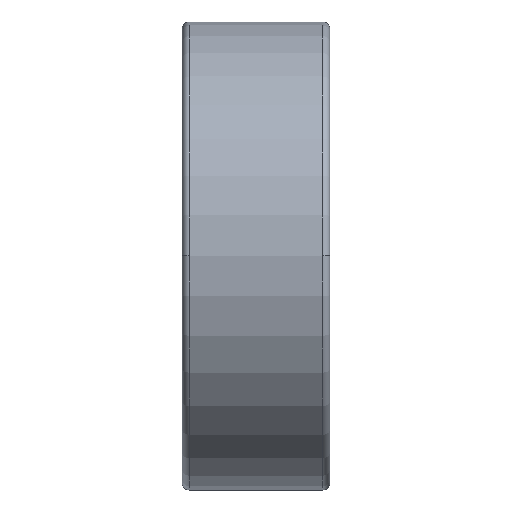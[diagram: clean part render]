
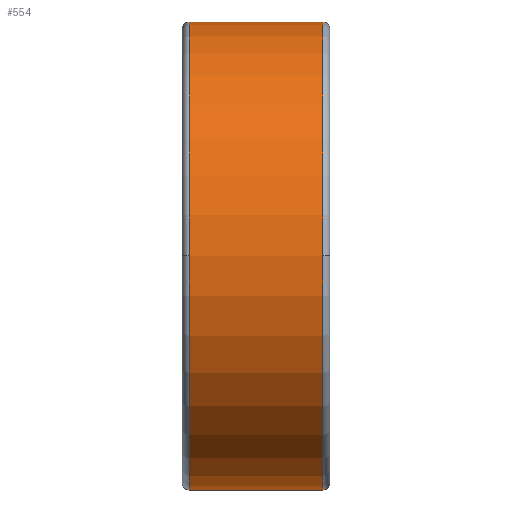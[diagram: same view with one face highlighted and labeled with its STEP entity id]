
A CAD part, top view. The second image highlights one B-rep face of the part: STEP entity #554.
In plain terms, the highlighted cylindrical face has radius 9.5 mm (diameter 19 mm), a partial arc.
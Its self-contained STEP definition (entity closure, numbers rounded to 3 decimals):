
#403 = TOROIDAL_SURFACE('',#404,9.2,0.3);
#404 = AXIS2_PLACEMENT_3D('',#405,#406,#407);
#405 = CARTESIAN_POINT('',(5.7,0.,0.));
#406 = DIRECTION('',(1.,0.,0.));
#407 = DIRECTION('',(0.,0.,-1.));
#415 = TOROIDAL_SURFACE('',#416,9.2,0.3);
#416 = AXIS2_PLACEMENT_3D('',#417,#418,#419);
#417 = CARTESIAN_POINT('',(5.7,0.,0.));
#418 = DIRECTION('',(1.,0.,0.));
#419 = DIRECTION('',(0.,0.,-1.));
#428 = VERTEX_POINT('',#429);
#429 = CARTESIAN_POINT('',(5.7,9.5,0.));
#444 = CYLINDRICAL_SURFACE('',#445,9.5);
#445 = AXIS2_PLACEMENT_3D('',#446,#447,#448);
#446 = CARTESIAN_POINT('',(3.,0.,0.));
#447 = DIRECTION('',(1.,0.,0.));
#448 = DIRECTION('',(-0.,1.,0.));
#456 = EDGE_CURVE('',#428,#457,#459,.T.);
#457 = VERTEX_POINT('',#458);
#458 = CARTESIAN_POINT('',(5.7,0.,9.5));
#459 = SURFACE_CURVE('',#460,(#465,#472),.PCURVE_S1.);
#460 = CIRCLE('',#461,9.5);
#461 = AXIS2_PLACEMENT_3D('',#462,#463,#464);
#462 = CARTESIAN_POINT('',(5.7,0.,0.));
#463 = DIRECTION('',(1.,0.,0.));
#464 = DIRECTION('',(-0.,1.,0.));
#465 = PCURVE('',#403,#466);
#466 = DEFINITIONAL_REPRESENTATION('',(#467),#471);
#467 = LINE('',#468,#469);
#468 = CARTESIAN_POINT('',(1.571,0.));
#469 = VECTOR('',#470,1.);
#470 = DIRECTION('',(1.,0.));
#471 = ( GEOMETRIC_REPRESENTATION_CONTEXT(2) 
PARAMETRIC_REPRESENTATION_CONTEXT() REPRESENTATION_CONTEXT('2D SPACE',''
  ) );
#472 = PCURVE('',#473,#478);
#473 = CYLINDRICAL_SURFACE('',#474,9.5);
#474 = AXIS2_PLACEMENT_3D('',#475,#476,#477);
#475 = CARTESIAN_POINT('',(3.,0.,0.));
#476 = DIRECTION('',(1.,0.,0.));
#477 = DIRECTION('',(-0.,1.,0.));
#478 = DEFINITIONAL_REPRESENTATION('',(#479),#483);
#479 = LINE('',#480,#481);
#480 = CARTESIAN_POINT('',(0.,2.7));
#481 = VECTOR('',#482,1.);
#482 = DIRECTION('',(1.,0.));
#483 = ( GEOMETRIC_REPRESENTATION_CONTEXT(2) 
PARAMETRIC_REPRESENTATION_CONTEXT() REPRESENTATION_CONTEXT('2D SPACE',''
  ) );
#554 = ADVANCED_FACE('',(#555),#473,.T.);
#555 = FACE_BOUND('',#556,.T.);
#556 = EDGE_LOOP('',(#557,#580,#609,#638,#661,#683));
#557 = ORIENTED_EDGE('',*,*,#558,.F.);
#558 = EDGE_CURVE('',#559,#428,#561,.T.);
#559 = VERTEX_POINT('',#560);
#560 = CARTESIAN_POINT('',(0.3,9.5,0.));
#561 = SURFACE_CURVE('',#562,(#566,#573),.PCURVE_S1.);
#562 = LINE('',#563,#564);
#563 = CARTESIAN_POINT('',(3.,9.5,0.));
#564 = VECTOR('',#565,1.);
#565 = DIRECTION('',(1.,0.,0.));
#566 = PCURVE('',#473,#567);
#567 = DEFINITIONAL_REPRESENTATION('',(#568),#572);
#568 = LINE('',#569,#570);
#569 = CARTESIAN_POINT('',(0.,0.));
#570 = VECTOR('',#571,1.);
#571 = DIRECTION('',(0.,1.));
#572 = ( GEOMETRIC_REPRESENTATION_CONTEXT(2) 
PARAMETRIC_REPRESENTATION_CONTEXT() REPRESENTATION_CONTEXT('2D SPACE',''
  ) );
#573 = PCURVE('',#444,#574);
#574 = DEFINITIONAL_REPRESENTATION('',(#575),#579);
#575 = LINE('',#576,#577);
#576 = CARTESIAN_POINT('',(6.283,0.));
#577 = VECTOR('',#578,1.);
#578 = DIRECTION('',(0.,1.));
#579 = ( GEOMETRIC_REPRESENTATION_CONTEXT(2) 
PARAMETRIC_REPRESENTATION_CONTEXT() REPRESENTATION_CONTEXT('2D SPACE',''
  ) );
#580 = ORIENTED_EDGE('',*,*,#581,.T.);
#581 = EDGE_CURVE('',#559,#582,#584,.T.);
#582 = VERTEX_POINT('',#583);
#583 = CARTESIAN_POINT('',(0.3,0.,9.5));
#584 = SURFACE_CURVE('',#585,(#590,#597),.PCURVE_S1.);
#585 = CIRCLE('',#586,9.5);
#586 = AXIS2_PLACEMENT_3D('',#587,#588,#589);
#587 = CARTESIAN_POINT('',(0.3,0.,0.));
#588 = DIRECTION('',(1.,0.,0.));
#589 = DIRECTION('',(-0.,1.,0.));
#590 = PCURVE('',#473,#591);
#591 = DEFINITIONAL_REPRESENTATION('',(#592),#596);
#592 = LINE('',#593,#594);
#593 = CARTESIAN_POINT('',(0.,-2.7));
#594 = VECTOR('',#595,1.);
#595 = DIRECTION('',(1.,0.));
#596 = ( GEOMETRIC_REPRESENTATION_CONTEXT(2) 
PARAMETRIC_REPRESENTATION_CONTEXT() REPRESENTATION_CONTEXT('2D SPACE',''
  ) );
#597 = PCURVE('',#598,#603);
#598 = TOROIDAL_SURFACE('',#599,9.2,0.3);
#599 = AXIS2_PLACEMENT_3D('',#600,#601,#602);
#600 = CARTESIAN_POINT('',(0.3,0.,0.));
#601 = DIRECTION('',(1.,0.,0.));
#602 = DIRECTION('',(0.,0.,-1.));
#603 = DEFINITIONAL_REPRESENTATION('',(#604),#608);
#604 = LINE('',#605,#606);
#605 = CARTESIAN_POINT('',(1.571,6.283));
#606 = VECTOR('',#607,1.);
#607 = DIRECTION('',(1.,0.));
#608 = ( GEOMETRIC_REPRESENTATION_CONTEXT(2) 
PARAMETRIC_REPRESENTATION_CONTEXT() REPRESENTATION_CONTEXT('2D SPACE',''
  ) );
#609 = ORIENTED_EDGE('',*,*,#610,.T.);
#610 = EDGE_CURVE('',#582,#611,#613,.T.);
#611 = VERTEX_POINT('',#612);
#612 = CARTESIAN_POINT('',(0.3,-9.5,0.));
#613 = SURFACE_CURVE('',#614,(#619,#626),.PCURVE_S1.);
#614 = CIRCLE('',#615,9.5);
#615 = AXIS2_PLACEMENT_3D('',#616,#617,#618);
#616 = CARTESIAN_POINT('',(0.3,0.,0.));
#617 = DIRECTION('',(1.,0.,0.));
#618 = DIRECTION('',(-0.,1.,0.));
#619 = PCURVE('',#473,#620);
#620 = DEFINITIONAL_REPRESENTATION('',(#621),#625);
#621 = LINE('',#622,#623);
#622 = CARTESIAN_POINT('',(0.,-2.7));
#623 = VECTOR('',#624,1.);
#624 = DIRECTION('',(1.,0.));
#625 = ( GEOMETRIC_REPRESENTATION_CONTEXT(2) 
PARAMETRIC_REPRESENTATION_CONTEXT() REPRESENTATION_CONTEXT('2D SPACE',''
  ) );
#626 = PCURVE('',#627,#632);
#627 = TOROIDAL_SURFACE('',#628,9.2,0.3);
#628 = AXIS2_PLACEMENT_3D('',#629,#630,#631);
#629 = CARTESIAN_POINT('',(0.3,0.,0.));
#630 = DIRECTION('',(1.,0.,0.));
#631 = DIRECTION('',(0.,0.,-1.));
#632 = DEFINITIONAL_REPRESENTATION('',(#633),#637);
#633 = LINE('',#634,#635);
#634 = CARTESIAN_POINT('',(1.571,6.283));
#635 = VECTOR('',#636,1.);
#636 = DIRECTION('',(1.,0.));
#637 = ( GEOMETRIC_REPRESENTATION_CONTEXT(2) 
PARAMETRIC_REPRESENTATION_CONTEXT() REPRESENTATION_CONTEXT('2D SPACE',''
  ) );
#638 = ORIENTED_EDGE('',*,*,#639,.F.);
#639 = EDGE_CURVE('',#640,#611,#642,.T.);
#640 = VERTEX_POINT('',#641);
#641 = CARTESIAN_POINT('',(5.7,-9.5,0.));
#642 = SURFACE_CURVE('',#643,(#647,#654),.PCURVE_S1.);
#643 = LINE('',#644,#645);
#644 = CARTESIAN_POINT('',(3.,-9.5,0.));
#645 = VECTOR('',#646,1.);
#646 = DIRECTION('',(-1.,-0.,-0.));
#647 = PCURVE('',#473,#648);
#648 = DEFINITIONAL_REPRESENTATION('',(#649),#653);
#649 = LINE('',#650,#651);
#650 = CARTESIAN_POINT('',(3.142,0.));
#651 = VECTOR('',#652,1.);
#652 = DIRECTION('',(0.,-1.));
#653 = ( GEOMETRIC_REPRESENTATION_CONTEXT(2) 
PARAMETRIC_REPRESENTATION_CONTEXT() REPRESENTATION_CONTEXT('2D SPACE',''
  ) );
#654 = PCURVE('',#444,#655);
#655 = DEFINITIONAL_REPRESENTATION('',(#656),#660);
#656 = LINE('',#657,#658);
#657 = CARTESIAN_POINT('',(3.142,0.));
#658 = VECTOR('',#659,1.);
#659 = DIRECTION('',(0.,-1.));
#660 = ( GEOMETRIC_REPRESENTATION_CONTEXT(2) 
PARAMETRIC_REPRESENTATION_CONTEXT() REPRESENTATION_CONTEXT('2D SPACE',''
  ) );
#661 = ORIENTED_EDGE('',*,*,#662,.F.);
#662 = EDGE_CURVE('',#457,#640,#663,.T.);
#663 = SURFACE_CURVE('',#664,(#669,#676),.PCURVE_S1.);
#664 = CIRCLE('',#665,9.5);
#665 = AXIS2_PLACEMENT_3D('',#666,#667,#668);
#666 = CARTESIAN_POINT('',(5.7,0.,0.));
#667 = DIRECTION('',(1.,0.,0.));
#668 = DIRECTION('',(-0.,1.,0.));
#669 = PCURVE('',#473,#670);
#670 = DEFINITIONAL_REPRESENTATION('',(#671),#675);
#671 = LINE('',#672,#673);
#672 = CARTESIAN_POINT('',(0.,2.7));
#673 = VECTOR('',#674,1.);
#674 = DIRECTION('',(1.,0.));
#675 = ( GEOMETRIC_REPRESENTATION_CONTEXT(2) 
PARAMETRIC_REPRESENTATION_CONTEXT() REPRESENTATION_CONTEXT('2D SPACE',''
  ) );
#676 = PCURVE('',#415,#677);
#677 = DEFINITIONAL_REPRESENTATION('',(#678),#682);
#678 = LINE('',#679,#680);
#679 = CARTESIAN_POINT('',(1.571,0.));
#680 = VECTOR('',#681,1.);
#681 = DIRECTION('',(1.,0.));
#682 = ( GEOMETRIC_REPRESENTATION_CONTEXT(2) 
PARAMETRIC_REPRESENTATION_CONTEXT() REPRESENTATION_CONTEXT('2D SPACE',''
  ) );
#683 = ORIENTED_EDGE('',*,*,#456,.F.);
